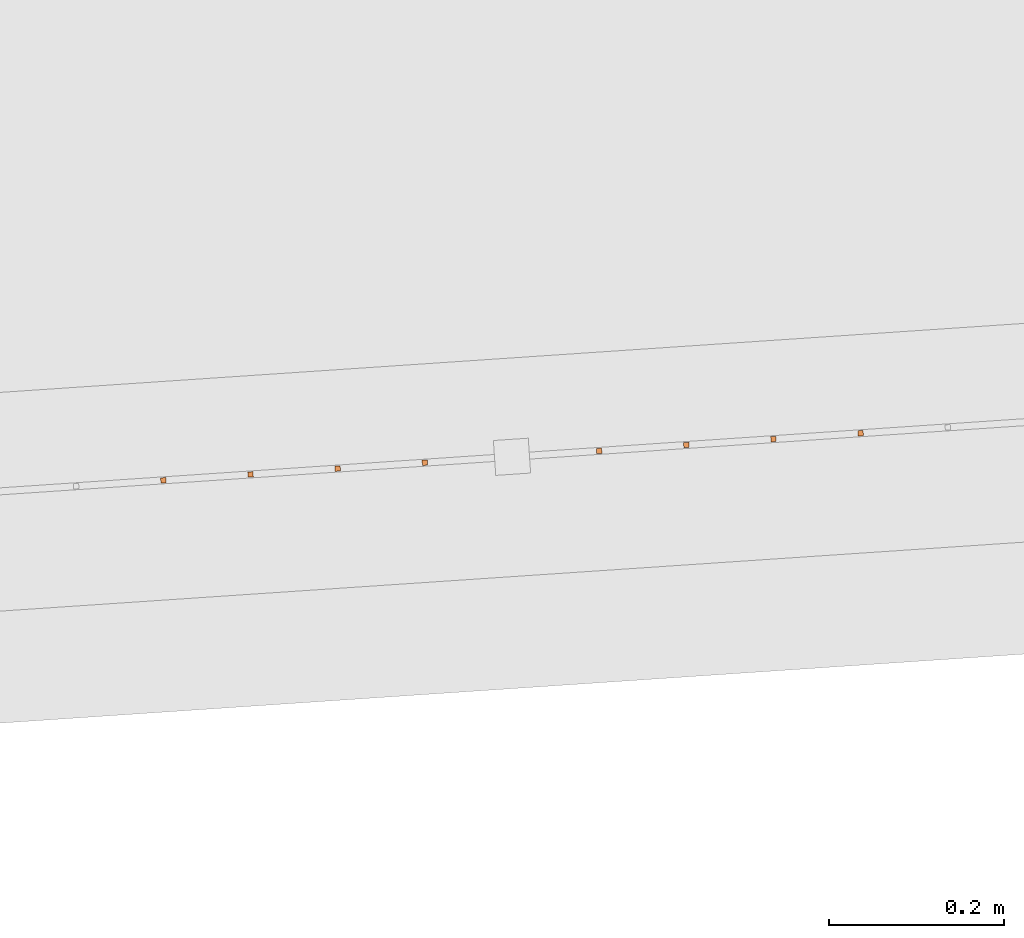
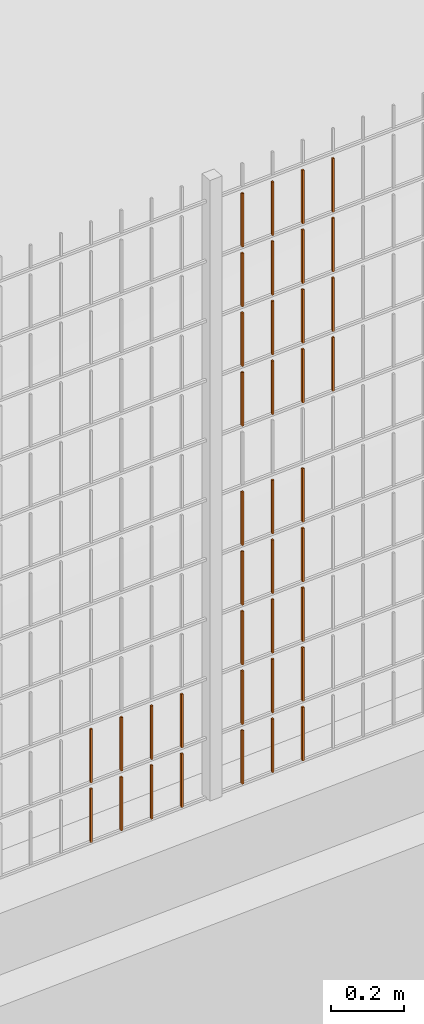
# One storey, part 160 of 1809: 39 proxies, 1 element without a shape of its own.
"""IFC2X3 building model written with IfcOpenShell, lengths in millimetres."""

from ifc_helpers import new_model, entity, si_unit, converted_unit, derived_unit, money_unit, direction, frame, origin_with_axes, place, context, subcontext, project, spatial, faceted_brep, source, transform, mapped, material, type_object, element, aggregate, save


model = new_model("IFC2X3")

# Units and contexts
model_context = context("Model", 3, precision=0.01, world=origin_with_axes(), true_north=direction((0.0, 1.0)))
body_context = subcontext(model_context, "Body", "Model", "MODEL_VIEW")
ifc_project = project(units=[si_unit("LENGTHUNIT", "METRE", prefix="MILLI"), si_unit("AREAUNIT", "SQUARE_METRE"), si_unit("VOLUMEUNIT", "CUBIC_METRE"), converted_unit("PLANEANGLEUNIT", "DEGREE", entity("IfcPlaneAngleMeasure", 0.0174532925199), si_unit("PLANEANGLEUNIT", "RADIAN"), dimensions=[0, 0, 0, 0, 0, 0, 0]), si_unit("SOLIDANGLEUNIT", "STERADIAN"), money_unit("EUR"), converted_unit("TIMEUNIT", "Year", entity("IfcTimeMeasure", 31556926.0), si_unit("TIMEUNIT", "SECOND"), dimensions=[0, 0, 1, 0, 0, 0, 0]), si_unit("MASSUNIT", "GRAM", prefix="KILO"), si_unit("THERMODYNAMICTEMPERATUREUNIT", "DEGREE_CELSIUS"), si_unit("LUMINOUSINTENSITYUNIT", "LUMEN"), si_unit("ENERGYUNIT", "JOULE", prefix="MEGA"), derived_unit("THERMALCONDUCTANCEUNIT", [(si_unit("POWERUNIT", "WATT"), 1), (si_unit("LENGTHUNIT", "METRE"), -1), (si_unit("THERMODYNAMICTEMPERATUREUNIT", "KELVIN"), -1)]), derived_unit("SPECIFICHEATCAPACITYUNIT", [(si_unit("ENERGYUNIT", "JOULE"), 1), (si_unit("MASSUNIT", "GRAM", prefix="KILO"), -1), (si_unit("THERMODYNAMICTEMPERATUREUNIT", "KELVIN"), -1)]), derived_unit("MASSDENSITYUNIT", [(si_unit("MASSUNIT", "GRAM", prefix="KILO"), 1), (si_unit("VOLUMEUNIT", "CUBIC_METRE"), -1)])], contexts=[model_context])

# Site, building, storey
site_placement = place(None, origin_with_axes())
site = spatial("IfcSite", under=ifc_project, at=site_placement, Name="Politse- ja Piirivalveameti ning Päästeameti ühishoone", CompositionType="ELEMENT")
building_placement = place(site_placement, origin_with_axes())
building = spatial("IfcBuilding", under=site, at=building_placement, Name="Politse- ja Piirivalveameti ning Päästeameti ühishoone", CompositionType="ELEMENT")
storey_placement = place(building_placement, origin_with_axes())
storey = spatial("IfcBuildingStorey", under=building, at=storey_placement, Name="Esimene korrus", CompositionType="ELEMENT", Elevation=0.0)

# Proxies
building_element_proxy_type_1 = type_object("IfcBuildingElementProxyType", Name="Railing Type", PredefinedType="NOTDEFINED")
proxy_1_placement = place(storey_placement, frame((89252.001212, -29183.4766571, 203.661247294), z_axis=(0.0, 0.0, 1.0), x_axis=(1.0, 0.0, 0.0)))
proxy_1 = element("IfcBuildingElementProxy", 1, at=proxy_1_placement, inside=storey, type_object=building_element_proxy_type_1, Name="PIIRDEAED")
ifc_material = material(Name="ET-03_Raud")
building_element_proxy_type_2 = type_object("IfcBuildingElementProxyType", Name="IfcBuildingElementProxy", PredefinedType="NOTDEFINED")
shared_shape_1 = source(origin_with_axes(), body_context, "Body", "Brep", [
    faceted_brep([(3.0, 3.0, -0.000752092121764), (-3.0, 3.0, -0.000752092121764), (-3.0, 3.0, 179.99926046), (3.0, 3.0, 179.99926046), (3.0, -3.0, 0.000752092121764), (-3.0, -3.0, 0.000752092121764), (-3.0, -3.0, 180.000764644), (3.0, -3.0, 180.000764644)], [[[0, 1, 2, 3]], [[0, 4, 5, 1]], [[1, 5, 6, 2]], [[3, 2, 6, 7]], [[4, 0, 3, 7]], [[5, 4, 7, 6]]]),
])
proxy_2_placement = place(proxy_1_placement, frame((-79246.1137957, -22650.5506845, 1207.32232342), z_axis=(0.0, 0.0, 1.0), x_axis=(1.0, 0.0, 0.0)))
proxy_2 = element("IfcBuildingElementProxy", 2, at=proxy_2_placement, type_object=building_element_proxy_type_2, material=ifc_material, Name="BALUSTER - 001", context=body_context, shape_type="MappedRepresentation", body=[
    mapped(shared_shape_1, transform((0.0, 0.0, 0.0), x_axis=(-0.0673926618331, 0.997726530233, 0.0), y_axis=(-0.997726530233, -0.0673926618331, 0.0), z_axis=(0.0, 0.0, 1.0))),
])
shared_shape_2 = source(origin_with_axes(), body_context, "Body", "Brep", [
    faceted_brep([(3.0, 3.0, -0.000752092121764), (-3.0, 3.0, -0.000752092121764), (-3.0, 3.0, 179.99926046), (3.0, 3.0, 179.99926046), (3.0, -3.0, 0.000752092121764), (-3.0, -3.0, 0.000752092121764), (-3.0, -3.0, 180.000764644), (3.0, -3.0, 180.000764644)], [[[0, 1, 2, 3]], [[0, 4, 5, 1]], [[1, 5, 6, 2]], [[3, 2, 6, 7]], [[4, 0, 3, 7]], [[5, 4, 7, 6]]]),
])
proxy_3_placement = place(proxy_1_placement, frame((-79246.1137957, -22650.5506845, 1407.32232342), z_axis=(0.0, 0.0, 1.0), x_axis=(1.0, 0.0, 0.0)))
proxy_3 = element("IfcBuildingElementProxy", 3, at=proxy_3_placement, type_object=building_element_proxy_type_2, material=ifc_material, Name="BALUSTER - 001", context=body_context, shape_type="MappedRepresentation", body=[
    mapped(shared_shape_2, transform((0.0, 0.0, 0.0), x_axis=(-0.0673926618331, 0.997726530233, 0.0), y_axis=(-0.997726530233, -0.0673926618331, 0.0), z_axis=(0.0, 0.0, 1.0))),
])
proxy_4_placement = place(proxy_1_placement, frame((-79246.1137957, -22650.5506845, 1607.32232342), z_axis=(0.0, 0.0, 1.0), x_axis=(1.0, 0.0, 0.0)))
proxy_4 = element("IfcBuildingElementProxy", 4, at=proxy_4_placement, type_object=building_element_proxy_type_2, material=ifc_material, Name="BALUSTER - 001", context=body_context, shape_type="MappedRepresentation", body=[
    mapped(shared_shape_2, transform((0.0, 0.0, 0.0), x_axis=(-0.0673926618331, 0.997726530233, 0.0), y_axis=(-0.997726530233, -0.0673926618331, 0.0), z_axis=(0.0, 0.0, 1.0))),
])
shared_shape_3 = source(origin_with_axes(), body_context, "Body", "Brep", [
    faceted_brep([(3.0, 3.0, -0.000752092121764), (-3.0, 3.0, -0.000752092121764), (-3.0, 3.0, 179.99926046), (3.0, 3.0, 179.99926046), (3.0, -3.0, 0.000752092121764), (-3.0, -3.0, 0.000752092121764), (-3.0, -3.0, 180.000764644), (3.0, -3.0, 180.000764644)], [[[0, 1, 2, 3]], [[0, 4, 5, 1]], [[1, 5, 6, 2]], [[3, 2, 6, 7]], [[4, 0, 3, 7]], [[5, 4, 7, 6]]]),
])
proxy_5_placement = place(proxy_1_placement, frame((-79445.6591017, -22664.0292168, 1807.27218394), z_axis=(0.0, 0.0, 1.0), x_axis=(1.0, 0.0, 0.0)))
proxy_5 = element("IfcBuildingElementProxy", 5, at=proxy_5_placement, type_object=building_element_proxy_type_2, material=ifc_material, Name="BALUSTER - 001", context=body_context, shape_type="MappedRepresentation", body=[
    mapped(shared_shape_3, transform((0.0, 0.0, 0.0), x_axis=(-0.0673926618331, 0.997726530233, 0.0), y_axis=(-0.997726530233, -0.0673926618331, 0.0), z_axis=(0.0, 0.0, 1.0))),
])
shared_shape_4 = source(origin_with_axes(), body_context, "Body", "Brep", [
    faceted_brep([(3.0, 3.0, -0.000752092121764), (-3.0, 3.0, -0.000752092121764), (-3.0, 3.0, 179.99926046), (3.0, 3.0, 179.99926046), (3.0, -3.0, 0.000752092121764), (-3.0, -3.0, 0.000752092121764), (-3.0, -3.0, 180.000764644), (3.0, -3.0, 180.000764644)], [[[0, 1, 2, 3]], [[0, 4, 5, 1]], [[1, 5, 6, 2]], [[3, 2, 6, 7]], [[4, 0, 3, 7]], [[5, 4, 7, 6]]]),
])
proxy_6_placement = place(proxy_1_placement, frame((-79445.6591017, -22664.0292168, 1207.27218394), z_axis=(0.0, 0.0, 1.0), x_axis=(1.0, 0.0, 0.0)))
proxy_6 = element("IfcBuildingElementProxy", 6, at=proxy_6_placement, type_object=building_element_proxy_type_2, material=ifc_material, Name="BALUSTER - 001", context=body_context, shape_type="MappedRepresentation", body=[
    mapped(shared_shape_4, transform((0.0, 0.0, 0.0), x_axis=(-0.0673926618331, 0.997726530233, 0.0), y_axis=(-0.997726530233, -0.0673926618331, 0.0), z_axis=(0.0, 0.0, 1.0))),
])
proxy_7_placement = place(proxy_1_placement, frame((-79246.1137957, -22650.5506845, 1807.32232342), z_axis=(0.0, 0.0, 1.0), x_axis=(1.0, 0.0, 0.0)))
proxy_7 = element("IfcBuildingElementProxy", 7, at=proxy_7_placement, type_object=building_element_proxy_type_2, material=ifc_material, Name="BALUSTER - 001", context=body_context, shape_type="MappedRepresentation", body=[
    mapped(shared_shape_4, transform((0.0, 0.0, 0.0), x_axis=(-0.0673926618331, 0.997726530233, 0.0), y_axis=(-0.997726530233, -0.0673926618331, 0.0), z_axis=(0.0, 0.0, 1.0))),
])
shared_shape_5 = source(origin_with_axes(), body_context, "Body", "Brep", [
    faceted_brep([(3.0, 3.0, -0.000752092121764), (-3.0, 3.0, -0.000752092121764), (-3.0, 3.0, 179.99926046), (3.0, 3.0, 179.99926046), (3.0, -3.0, 0.000752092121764), (-3.0, -3.0, 0.000752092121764), (-3.0, -3.0, 180.000764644), (3.0, -3.0, 180.000764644)], [[[0, 1, 2, 3]], [[0, 4, 5, 1]], [[1, 5, 6, 2]], [[3, 2, 6, 7]], [[4, 0, 3, 7]], [[5, 4, 7, 6]]]),
])
proxy_8_placement = place(proxy_1_placement, frame((-79744.9770608, -22684.2470154, 207.19697473), z_axis=(0.0, 0.0, 1.0), x_axis=(1.0, 0.0, 0.0)))
proxy_8 = element("IfcBuildingElementProxy", 8, at=proxy_8_placement, type_object=building_element_proxy_type_2, material=ifc_material, Name="BALUSTER - 001", context=body_context, shape_type="MappedRepresentation", body=[
    mapped(shared_shape_5, transform((0.0, 0.0, 0.0), x_axis=(-0.0673926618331, 0.997726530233, 0.0), y_axis=(-0.997726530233, -0.0673926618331, 0.0), z_axis=(0.0, 0.0, 1.0))),
])
shared_shape_6 = source(origin_with_axes(), body_context, "Body", "Brep", [
    faceted_brep([(3.0, 3.0, -0.000752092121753), (-3.0, 3.0, -0.000752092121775), (-3.0, 3.0, 179.99926046), (3.0, 3.0, 179.99926046), (3.0, -3.0, 0.000752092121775), (-3.0, -3.0, 0.000752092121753), (-3.0, -3.0, 180.000764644), (3.0, -3.0, 180.000764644)], [[[0, 1, 2, 3]], [[0, 4, 5, 1]], [[1, 5, 6, 2]], [[3, 2, 6, 7]], [[4, 0, 3, 7]], [[5, 4, 7, 6]]]),
])
proxy_9_placement = place(proxy_1_placement, frame((-79345.8864487, -22657.2899506, 7.29725367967), z_axis=(0.0, 0.0, 1.0), x_axis=(1.0, 0.0, 0.0)))
proxy_9 = element("IfcBuildingElementProxy", 9, at=proxy_9_placement, type_object=building_element_proxy_type_2, material=ifc_material, Name="BALUSTER - 001", context=body_context, shape_type="MappedRepresentation", body=[
    mapped(shared_shape_6, transform((0.0, 0.0, 0.0), x_axis=(-0.0673926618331, 0.997726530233, 0.0), y_axis=(-0.997726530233, -0.0673926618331, 0.0), z_axis=(0.0, 0.0, 1.0))),
])
proxy_10_placement = place(proxy_1_placement, frame((-79445.6591017, -22664.0292168, 7.27218394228), z_axis=(0.0, 0.0, 1.0), x_axis=(1.0, 0.0, 0.0)))
proxy_10 = element("IfcBuildingElementProxy", 10, at=proxy_10_placement, type_object=building_element_proxy_type_2, material=ifc_material, Name="BALUSTER - 001", context=body_context, shape_type="MappedRepresentation", body=[
    mapped(shared_shape_6, transform((0.0, 0.0, 0.0), x_axis=(-0.0673926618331, 0.997726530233, 0.0), y_axis=(-0.997726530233, -0.0673926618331, 0.0), z_axis=(0.0, 0.0, 1.0))),
])
proxy_11_placement = place(proxy_1_placement, frame((-79345.8864487, -22657.2899506, 207.29725368), z_axis=(0.0, 0.0, 1.0), x_axis=(1.0, 0.0, 0.0)))
proxy_11 = element("IfcBuildingElementProxy", 11, at=proxy_11_placement, type_object=building_element_proxy_type_2, material=ifc_material, Name="BALUSTER - 001", context=body_context, shape_type="MappedRepresentation", body=[
    mapped(shared_shape_6, transform((0.0, 0.0, 0.0), x_axis=(-0.0673926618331, 0.997726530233, 0.0), y_axis=(-0.997726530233, -0.0673926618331, 0.0), z_axis=(0.0, 0.0, 1.0))),
])
proxy_12_placement = place(proxy_1_placement, frame((-79445.6591017, -22664.0292168, 207.272183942), z_axis=(0.0, 0.0, 1.0), x_axis=(1.0, 0.0, 0.0)))
proxy_12 = element("IfcBuildingElementProxy", 12, at=proxy_12_placement, type_object=building_element_proxy_type_2, material=ifc_material, Name="BALUSTER - 001", context=body_context, shape_type="MappedRepresentation", body=[
    mapped(shared_shape_6, transform((0.0, 0.0, 0.0), x_axis=(-0.0673926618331, 0.997726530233, 0.0), y_axis=(-0.997726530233, -0.0673926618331, 0.0), z_axis=(0.0, 0.0, 1.0))),
])
proxy_13_placement = place(proxy_1_placement, frame((-79944.5223669, -22697.7255477, 7.14683525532), z_axis=(0.0, 0.0, 1.0), x_axis=(1.0, 0.0, 0.0)))
proxy_13 = element("IfcBuildingElementProxy", 13, at=proxy_13_placement, type_object=building_element_proxy_type_2, material=ifc_material, Name="BALUSTER - 001", context=body_context, shape_type="MappedRepresentation", body=[
    mapped(shared_shape_6, transform((0.0, 0.0, 0.0), x_axis=(-0.0673926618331, 0.997726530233, 0.0), y_axis=(-0.997726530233, -0.0673926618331, 0.0), z_axis=(0.0, 0.0, 1.0))),
])
proxy_14_placement = place(proxy_1_placement, frame((-80044.2950199, -22704.4648139, 7.12176551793), z_axis=(0.0, 0.0, 1.0), x_axis=(1.0, 0.0, 0.0)))
proxy_14 = element("IfcBuildingElementProxy", 14, at=proxy_14_placement, type_object=building_element_proxy_type_2, material=ifc_material, Name="BALUSTER - 001", context=body_context, shape_type="MappedRepresentation", body=[
    mapped(shared_shape_6, transform((0.0, 0.0, 0.0), x_axis=(-0.0673926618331, 0.997726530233, 0.0), y_axis=(-0.997726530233, -0.0673926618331, 0.0), z_axis=(0.0, 0.0, 1.0))),
])
proxy_15_placement = place(proxy_1_placement, frame((-80044.2950199, -22704.4648139, 207.121765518), z_axis=(0.0, 0.0, 1.0), x_axis=(1.0, 0.0, 0.0)))
proxy_15 = element("IfcBuildingElementProxy", 15, at=proxy_15_placement, type_object=building_element_proxy_type_2, material=ifc_material, Name="BALUSTER - 001", context=body_context, shape_type="MappedRepresentation", body=[
    mapped(shared_shape_6, transform((0.0, 0.0, 0.0), x_axis=(-0.0673926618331, 0.997726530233, 0.0), y_axis=(-0.997726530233, -0.0673926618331, 0.0), z_axis=(0.0, 0.0, 1.0))),
])
shared_shape_7 = source(origin_with_axes(), body_context, "Body", "Brep", [
    faceted_brep([(3.0, 3.0, -0.000752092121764), (-3.0, 3.0, -0.000752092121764), (-3.0, 3.0, 179.99926046), (3.0, 3.0, 179.99926046), (3.0, -3.0, 0.000752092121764), (-3.0, -3.0, 0.000752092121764), (-3.0, -3.0, 180.000764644), (3.0, -3.0, 180.000764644)], [[[0, 1, 2, 3]], [[0, 4, 5, 1]], [[1, 5, 6, 2]], [[3, 2, 6, 7]], [[4, 0, 3, 7]], [[5, 4, 7, 6]]]),
])
proxy_16_placement = place(proxy_1_placement, frame((-79844.7497138, -22690.9862816, 7.17190499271), z_axis=(0.0, 0.0, 1.0), x_axis=(1.0, 0.0, 0.0)))
proxy_16 = element("IfcBuildingElementProxy", 16, at=proxy_16_placement, type_object=building_element_proxy_type_2, material=ifc_material, Name="BALUSTER - 001", context=body_context, shape_type="MappedRepresentation", body=[
    mapped(shared_shape_7, transform((0.0, 0.0, 0.0), x_axis=(-0.0673926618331, 0.997726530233, 0.0), y_axis=(-0.997726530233, -0.0673926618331, 0.0), z_axis=(0.0, 0.0, 1.0))),
])
shared_shape_8 = source(origin_with_axes(), body_context, "Body", "Brep", [
    faceted_brep([(3.0, 3.0, -0.000752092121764), (-3.0, 3.0, -0.000752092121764), (-3.0, 3.0, 179.99926046), (3.0, 3.0, 179.99926046), (3.0, -3.0, 0.000752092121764), (-3.0, -3.0, 0.000752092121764), (-3.0, -3.0, 180.000764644), (3.0, -3.0, 180.000764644)], [[[0, 1, 2, 3]], [[0, 4, 5, 1]], [[1, 5, 6, 2]], [[3, 2, 6, 7]], [[4, 0, 3, 7]], [[5, 4, 7, 6]]]),
])
proxy_17_placement = place(proxy_1_placement, frame((-79844.7497138, -22690.9862816, 207.171904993), z_axis=(0.0, 0.0, 1.0), x_axis=(1.0, 0.0, 0.0)))
proxy_17 = element("IfcBuildingElementProxy", 17, at=proxy_17_placement, type_object=building_element_proxy_type_2, material=ifc_material, Name="BALUSTER - 001", context=body_context, shape_type="MappedRepresentation", body=[
    mapped(shared_shape_8, transform((0.0, 0.0, 0.0), x_axis=(-0.0673926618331, 0.997726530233, 0.0), y_axis=(-0.997726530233, -0.0673926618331, 0.0), z_axis=(0.0, 0.0, 1.0))),
])
shared_shape_9 = source(origin_with_axes(), body_context, "Body", "Brep", [
    faceted_brep([(3.0, 3.0, -0.000752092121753), (-3.0, 3.0, -0.000752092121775), (-3.0, 3.0, 179.99926046), (3.0, 3.0, 179.99926046), (3.0, -3.0, 0.000752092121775), (-3.0, -3.0, 0.000752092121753), (-3.0, -3.0, 180.000764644), (3.0, -3.0, 180.000764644)], [[[0, 1, 2, 3]], [[0, 4, 5, 1]], [[1, 5, 6, 2]], [[3, 2, 6, 7]], [[4, 0, 3, 7]], [[5, 4, 7, 6]]]),
])
proxy_18_placement = place(proxy_1_placement, frame((-79445.6591017, -22664.0292168, 407.272183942), z_axis=(0.0, 0.0, 1.0), x_axis=(1.0, 0.0, 0.0)))
proxy_18 = element("IfcBuildingElementProxy", 18, at=proxy_18_placement, type_object=building_element_proxy_type_2, material=ifc_material, Name="BALUSTER - 001", context=body_context, shape_type="MappedRepresentation", body=[
    mapped(shared_shape_9, transform((0.0, 0.0, 0.0), x_axis=(-0.0673926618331, 0.997726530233, 0.0), y_axis=(-0.997726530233, -0.0673926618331, 0.0), z_axis=(0.0, 0.0, 1.0))),
])
proxy_19_placement = place(proxy_1_placement, frame((-79545.4317548, -22670.768483, 607.247114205), z_axis=(0.0, 0.0, 1.0), x_axis=(1.0, 0.0, 0.0)))
proxy_19 = element("IfcBuildingElementProxy", 19, at=proxy_19_placement, type_object=building_element_proxy_type_2, material=ifc_material, Name="BALUSTER - 001", context=body_context, shape_type="MappedRepresentation", body=[
    mapped(shared_shape_9, transform((0.0, 0.0, 0.0), x_axis=(-0.0673926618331, 0.997726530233, 0.0), y_axis=(-0.997726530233, -0.0673926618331, 0.0), z_axis=(0.0, 0.0, 1.0))),
])
shared_shape_10 = source(origin_with_axes(), body_context, "Body", "Brep", [
    faceted_brep([(3.0, 3.0, -0.000752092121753), (-3.0, 3.0, -0.000752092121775), (-3.0, 3.0, 179.99926046), (3.0, 3.0, 179.99926046), (3.0, -3.0, 0.000752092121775), (-3.0, -3.0, 0.000752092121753), (-3.0, -3.0, 180.000764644), (3.0, -3.0, 180.000764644)], [[[0, 1, 2, 3]], [[0, 4, 5, 1]], [[1, 5, 6, 2]], [[3, 2, 6, 7]], [[4, 0, 3, 7]], [[5, 4, 7, 6]]]),
])
proxy_20_placement = place(proxy_1_placement, frame((-79345.8864487, -22657.2899506, 607.29725368), z_axis=(0.0, 0.0, 1.0), x_axis=(1.0, 0.0, 0.0)))
proxy_20 = element("IfcBuildingElementProxy", 20, at=proxy_20_placement, type_object=building_element_proxy_type_2, material=ifc_material, Name="BALUSTER - 001", context=body_context, shape_type="MappedRepresentation", body=[
    mapped(shared_shape_10, transform((0.0, 0.0, 0.0), x_axis=(-0.0673926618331, 0.997726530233, 0.0), y_axis=(-0.997726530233, -0.0673926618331, 0.0), z_axis=(0.0, 0.0, 1.0))),
])
proxy_21_placement = place(proxy_1_placement, frame((-79345.8864487, -22657.2899506, 807.29725368), z_axis=(0.0, 0.0, 1.0), x_axis=(1.0, 0.0, 0.0)))
proxy_21 = element("IfcBuildingElementProxy", 21, at=proxy_21_placement, type_object=building_element_proxy_type_2, material=ifc_material, Name="BALUSTER - 001", context=body_context, shape_type="MappedRepresentation", body=[
    mapped(shared_shape_10, transform((0.0, 0.0, 0.0), x_axis=(-0.0673926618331, 0.997726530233, 0.0), y_axis=(-0.997726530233, -0.0673926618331, 0.0), z_axis=(0.0, 0.0, 1.0))),
])
proxy_22_placement = place(proxy_1_placement, frame((-79345.8864487, -22657.2899506, 1207.29725368), z_axis=(0.0, 0.0, 1.0), x_axis=(1.0, 0.0, 0.0)))
proxy_22 = element("IfcBuildingElementProxy", 22, at=proxy_22_placement, type_object=building_element_proxy_type_2, material=ifc_material, Name="BALUSTER - 001", context=body_context, shape_type="MappedRepresentation", body=[
    mapped(shared_shape_10, transform((0.0, 0.0, 0.0), x_axis=(-0.0673926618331, 0.997726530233, 0.0), y_axis=(-0.997726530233, -0.0673926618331, 0.0), z_axis=(0.0, 0.0, 1.0))),
])
shared_shape_11 = source(origin_with_axes(), body_context, "Body", "Brep", [
    faceted_brep([(3.0, 3.0, -0.000752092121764), (-3.0, 3.0, -0.000752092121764), (-3.0, 3.0, 179.99926046), (3.0, 3.0, 179.99926046), (3.0, -3.0, 0.000752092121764), (-3.0, -3.0, 0.000752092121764), (-3.0, -3.0, 180.000764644), (3.0, -3.0, 180.000764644)], [[[0, 1, 2, 3]], [[0, 4, 5, 1]], [[1, 5, 6, 2]], [[3, 2, 6, 7]], [[4, 0, 3, 7]], [[5, 4, 7, 6]]]),
])
proxy_23_placement = place(proxy_1_placement, frame((-79545.4317548, -22670.768483, 1807.2471142), z_axis=(0.0, 0.0, 1.0), x_axis=(1.0, 0.0, 0.0)))
proxy_23 = element("IfcBuildingElementProxy", 23, at=proxy_23_placement, type_object=building_element_proxy_type_2, material=ifc_material, Name="BALUSTER - 001", context=body_context, shape_type="MappedRepresentation", body=[
    mapped(shared_shape_11, transform((0.0, 0.0, 0.0), x_axis=(-0.0673926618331, 0.997726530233, 0.0), y_axis=(-0.997726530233, -0.0673926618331, 0.0), z_axis=(0.0, 0.0, 1.0))),
])
shared_shape_12 = source(origin_with_axes(), body_context, "Body", "Brep", [
    faceted_brep([(3.0, 3.0, -0.000752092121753), (-3.0, 3.0, -0.000752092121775), (-3.0, 3.0, 179.99926046), (3.0, 3.0, 179.99926046), (3.0, -3.0, 0.000752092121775), (-3.0, -3.0, 0.000752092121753), (-3.0, -3.0, 180.000764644), (3.0, -3.0, 180.000764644)], [[[0, 1, 2, 3]], [[0, 4, 5, 1]], [[1, 5, 6, 2]], [[3, 2, 6, 7]], [[4, 0, 3, 7]], [[5, 4, 7, 6]]]),
])
proxy_24_placement = place(proxy_1_placement, frame((-79445.6591017, -22664.0292168, 807.272183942), z_axis=(0.0, 0.0, 1.0), x_axis=(1.0, 0.0, 0.0)))
proxy_24 = element("IfcBuildingElementProxy", 24, at=proxy_24_placement, type_object=building_element_proxy_type_2, material=ifc_material, Name="BALUSTER - 001", context=body_context, shape_type="MappedRepresentation", body=[
    mapped(shared_shape_12, transform((0.0, 0.0, 0.0), x_axis=(-0.0673926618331, 0.997726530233, 0.0), y_axis=(-0.997726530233, -0.0673926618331, 0.0), z_axis=(0.0, 0.0, 1.0))),
])
shared_shape_13 = source(origin_with_axes(), body_context, "Body", "Brep", [
    faceted_brep([(3.0, 3.0, -0.000752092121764), (-3.0, 3.0, -0.000752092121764), (-3.0, 3.0, 179.99926046), (3.0, 3.0, 179.99926046), (3.0, -3.0, 0.000752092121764), (-3.0, -3.0, 0.000752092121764), (-3.0, -3.0, 180.000764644), (3.0, -3.0, 180.000764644)], [[[0, 1, 2, 3]], [[0, 4, 5, 1]], [[1, 5, 6, 2]], [[3, 2, 6, 7]], [[4, 0, 3, 7]], [[5, 4, 7, 6]]]),
])
proxy_25_placement = place(proxy_1_placement, frame((-79445.6591017, -22664.0292168, 1407.27218394), z_axis=(0.0, 0.0, 1.0), x_axis=(1.0, 0.0, 0.0)))
proxy_25 = element("IfcBuildingElementProxy", 25, at=proxy_25_placement, type_object=building_element_proxy_type_2, material=ifc_material, Name="BALUSTER - 001", context=body_context, shape_type="MappedRepresentation", body=[
    mapped(shared_shape_13, transform((0.0, 0.0, 0.0), x_axis=(-0.0673926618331, 0.997726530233, 0.0), y_axis=(-0.997726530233, -0.0673926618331, 0.0), z_axis=(0.0, 0.0, 1.0))),
])
proxy_26_placement = place(proxy_1_placement, frame((-79445.6591017, -22664.0292168, 1607.27218394), z_axis=(0.0, 0.0, 1.0), x_axis=(1.0, 0.0, 0.0)))
proxy_26 = element("IfcBuildingElementProxy", 26, at=proxy_26_placement, type_object=building_element_proxy_type_2, material=ifc_material, Name="BALUSTER - 001", context=body_context, shape_type="MappedRepresentation", body=[
    mapped(shared_shape_13, transform((0.0, 0.0, 0.0), x_axis=(-0.0673926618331, 0.997726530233, 0.0), y_axis=(-0.997726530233, -0.0673926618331, 0.0), z_axis=(0.0, 0.0, 1.0))),
])
shared_shape_14 = source(origin_with_axes(), body_context, "Body", "Brep", [
    faceted_brep([(3.0, 3.0, -0.000752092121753), (-3.0, 3.0, -0.000752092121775), (-3.0, 3.0, 179.99926046), (3.0, 3.0, 179.99926046), (3.0, -3.0, 0.000752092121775), (-3.0, -3.0, 0.000752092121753), (-3.0, -3.0, 180.000764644), (3.0, -3.0, 180.000764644)], [[[0, 1, 2, 3]], [[0, 4, 5, 1]], [[1, 5, 6, 2]], [[3, 2, 6, 7]], [[4, 0, 3, 7]], [[5, 4, 7, 6]]]),
])
proxy_27_placement = place(proxy_1_placement, frame((-79345.8864487, -22657.2899506, 1407.29725368), z_axis=(0.0, 0.0, 1.0), x_axis=(1.0, 0.0, 0.0)))
proxy_27 = element("IfcBuildingElementProxy", 27, at=proxy_27_placement, type_object=building_element_proxy_type_2, material=ifc_material, Name="BALUSTER - 001", context=body_context, shape_type="MappedRepresentation", body=[
    mapped(shared_shape_14, transform((0.0, 0.0, 0.0), x_axis=(-0.0673926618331, 0.997726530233, 0.0), y_axis=(-0.997726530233, -0.0673926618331, 0.0), z_axis=(0.0, 0.0, 1.0))),
])
proxy_28_placement = place(proxy_1_placement, frame((-79345.8864487, -22657.2899506, 1607.29725368), z_axis=(0.0, 0.0, 1.0), x_axis=(1.0, 0.0, 0.0)))
proxy_28 = element("IfcBuildingElementProxy", 28, at=proxy_28_placement, type_object=building_element_proxy_type_2, material=ifc_material, Name="BALUSTER - 001", context=body_context, shape_type="MappedRepresentation", body=[
    mapped(shared_shape_14, transform((0.0, 0.0, 0.0), x_axis=(-0.0673926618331, 0.997726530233, 0.0), y_axis=(-0.997726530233, -0.0673926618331, 0.0), z_axis=(0.0, 0.0, 1.0))),
])
shared_shape_15 = source(origin_with_axes(), body_context, "Body", "Brep", [
    faceted_brep([(3.0, 3.0, -0.000752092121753), (-3.0, 3.0, -0.000752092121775), (-3.0, 3.0, 179.99926046), (3.0, 3.0, 179.99926046), (3.0, -3.0, 0.000752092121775), (-3.0, -3.0, 0.000752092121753), (-3.0, -3.0, 180.000764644), (3.0, -3.0, 180.000764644)], [[[0, 1, 2, 3]], [[0, 4, 5, 1]], [[1, 5, 6, 2]], [[3, 2, 6, 7]], [[4, 0, 3, 7]], [[5, 4, 7, 6]]]),
])
proxy_29_placement = place(proxy_1_placement, frame((-79445.6591017, -22664.0292168, 607.272183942), z_axis=(0.0, 0.0, 1.0), x_axis=(1.0, 0.0, 0.0)))
proxy_29 = element("IfcBuildingElementProxy", 29, at=proxy_29_placement, type_object=building_element_proxy_type_2, material=ifc_material, Name="BALUSTER - 001", context=body_context, shape_type="MappedRepresentation", body=[
    mapped(shared_shape_15, transform((0.0, 0.0, 0.0), x_axis=(-0.0673926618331, 0.997726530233, 0.0), y_axis=(-0.997726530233, -0.0673926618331, 0.0), z_axis=(0.0, 0.0, 1.0))),
])
proxy_30_placement = place(proxy_1_placement, frame((-79545.4317548, -22670.768483, 807.247114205), z_axis=(0.0, 0.0, 1.0), x_axis=(1.0, 0.0, 0.0)))
proxy_30 = element("IfcBuildingElementProxy", 30, at=proxy_30_placement, type_object=building_element_proxy_type_2, material=ifc_material, Name="BALUSTER - 001", context=body_context, shape_type="MappedRepresentation", body=[
    mapped(shared_shape_15, transform((0.0, 0.0, 0.0), x_axis=(-0.0673926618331, 0.997726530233, 0.0), y_axis=(-0.997726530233, -0.0673926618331, 0.0), z_axis=(0.0, 0.0, 1.0))),
])
proxy_31_placement = place(proxy_1_placement, frame((-79345.8864487, -22657.2899506, 1807.29725368), z_axis=(0.0, 0.0, 1.0), x_axis=(1.0, 0.0, 0.0)))
proxy_31 = element("IfcBuildingElementProxy", 31, at=proxy_31_placement, type_object=building_element_proxy_type_2, material=ifc_material, Name="BALUSTER - 001", context=body_context, shape_type="MappedRepresentation", body=[
    mapped(shared_shape_15, transform((0.0, 0.0, 0.0), x_axis=(-0.0673926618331, 0.997726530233, 0.0), y_axis=(-0.997726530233, -0.0673926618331, 0.0), z_axis=(0.0, 0.0, 1.0))),
])
shared_shape_16 = source(origin_with_axes(), body_context, "Body", "Brep", [
    faceted_brep([(3.0, 3.0, -0.000752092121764), (-3.0, 3.0, -0.000752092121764), (-3.0, 3.0, 179.99926046), (3.0, 3.0, 179.99926046), (3.0, -3.0, 0.000752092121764), (-3.0, -3.0, 0.000752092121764), (-3.0, -3.0, 180.000764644), (3.0, -3.0, 180.000764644)], [[[0, 1, 2, 3]], [[0, 4, 5, 1]], [[1, 5, 6, 2]], [[3, 2, 6, 7]], [[4, 0, 3, 7]], [[5, 4, 7, 6]]]),
])
proxy_32_placement = place(proxy_1_placement, frame((-79545.4317548, -22670.768483, 1207.2471142), z_axis=(0.0, 0.0, 1.0), x_axis=(1.0, 0.0, 0.0)))
proxy_32 = element("IfcBuildingElementProxy", 32, at=proxy_32_placement, type_object=building_element_proxy_type_2, material=ifc_material, Name="BALUSTER - 001", context=body_context, shape_type="MappedRepresentation", body=[
    mapped(shared_shape_16, transform((0.0, 0.0, 0.0), x_axis=(-0.0673926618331, 0.997726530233, 0.0), y_axis=(-0.997726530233, -0.0673926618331, 0.0), z_axis=(0.0, 0.0, 1.0))),
])
shared_shape_17 = source(origin_with_axes(), body_context, "Body", "Brep", [
    faceted_brep([(3.0, 3.0, -0.000752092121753), (-3.0, 3.0, -0.000752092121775), (-3.0, 3.0, 179.99926046), (3.0, 3.0, 179.99926046), (3.0, -3.0, 0.000752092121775), (-3.0, -3.0, 0.000752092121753), (-3.0, -3.0, 180.000764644), (3.0, -3.0, 180.000764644)], [[[0, 1, 2, 3]], [[0, 4, 5, 1]], [[1, 5, 6, 2]], [[3, 2, 6, 7]], [[4, 0, 3, 7]], [[5, 4, 7, 6]]]),
])
proxy_33_placement = place(proxy_1_placement, frame((-79944.5223669, -22697.7255477, 207.146835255), z_axis=(0.0, 0.0, 1.0), x_axis=(1.0, 0.0, 0.0)))
proxy_33 = element("IfcBuildingElementProxy", 33, at=proxy_33_placement, type_object=building_element_proxy_type_2, material=ifc_material, Name="BALUSTER - 001", context=body_context, shape_type="MappedRepresentation", body=[
    mapped(shared_shape_17, transform((0.0, 0.0, 0.0), x_axis=(-0.0673926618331, 0.997726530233, 0.0), y_axis=(-0.997726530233, -0.0673926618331, 0.0), z_axis=(0.0, 0.0, 1.0))),
])
shared_shape_18 = source(origin_with_axes(), body_context, "Body", "Brep", [
    faceted_brep([(3.0, 3.0, -0.000752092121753), (-3.0, 3.0, -0.000752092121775), (-3.0, 3.0, 179.99926046), (3.0, 3.0, 179.99926046), (3.0, -3.0, 0.000752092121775), (-3.0, -3.0, 0.000752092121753), (-3.0, -3.0, 180.000764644), (3.0, -3.0, 180.000764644)], [[[0, 1, 2, 3]], [[0, 4, 5, 1]], [[1, 5, 6, 2]], [[3, 2, 6, 7]], [[4, 0, 3, 7]], [[5, 4, 7, 6]]]),
])
proxy_34_placement = place(proxy_1_placement, frame((-79545.4317548, -22670.768483, 7.24711420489), z_axis=(0.0, 0.0, 1.0), x_axis=(1.0, 0.0, 0.0)))
proxy_34 = element("IfcBuildingElementProxy", 34, at=proxy_34_placement, type_object=building_element_proxy_type_2, material=ifc_material, Name="BALUSTER - 001", context=body_context, shape_type="MappedRepresentation", body=[
    mapped(shared_shape_18, transform((0.0, 0.0, 0.0), x_axis=(-0.0673926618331, 0.997726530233, 0.0), y_axis=(-0.997726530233, -0.0673926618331, 0.0), z_axis=(0.0, 0.0, 1.0))),
])
shared_shape_19 = source(origin_with_axes(), body_context, "Body", "Brep", [
    faceted_brep([(3.0, 3.0, -0.000752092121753), (-3.0, 3.0, -0.000752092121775), (-3.0, 3.0, 179.99926046), (3.0, 3.0, 179.99926046), (3.0, -3.0, 0.000752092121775), (-3.0, -3.0, 0.000752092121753), (-3.0, -3.0, 180.000764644), (3.0, -3.0, 180.000764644)], [[[0, 1, 2, 3]], [[0, 4, 5, 1]], [[1, 5, 6, 2]], [[3, 2, 6, 7]], [[4, 0, 3, 7]], [[5, 4, 7, 6]]]),
])
proxy_35_placement = place(proxy_1_placement, frame((-79545.4317548, -22670.768483, 207.247114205), z_axis=(0.0, 0.0, 1.0), x_axis=(1.0, 0.0, 0.0)))
proxy_35 = element("IfcBuildingElementProxy", 35, at=proxy_35_placement, type_object=building_element_proxy_type_2, material=ifc_material, Name="BALUSTER - 001", context=body_context, shape_type="MappedRepresentation", body=[
    mapped(shared_shape_19, transform((0.0, 0.0, 0.0), x_axis=(-0.0673926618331, 0.997726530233, 0.0), y_axis=(-0.997726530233, -0.0673926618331, 0.0), z_axis=(0.0, 0.0, 1.0))),
])
proxy_36_placement = place(proxy_1_placement, frame((-79345.8864487, -22657.2899506, 407.29725368), z_axis=(0.0, 0.0, 1.0), x_axis=(1.0, 0.0, 0.0)))
proxy_36 = element("IfcBuildingElementProxy", 36, at=proxy_36_placement, type_object=building_element_proxy_type_2, material=ifc_material, Name="BALUSTER - 001", context=body_context, shape_type="MappedRepresentation", body=[
    mapped(shared_shape_19, transform((0.0, 0.0, 0.0), x_axis=(-0.0673926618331, 0.997726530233, 0.0), y_axis=(-0.997726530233, -0.0673926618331, 0.0), z_axis=(0.0, 0.0, 1.0))),
])
proxy_37_placement = place(proxy_1_placement, frame((-79545.4317548, -22670.768483, 407.247114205), z_axis=(0.0, 0.0, 1.0), x_axis=(1.0, 0.0, 0.0)))
proxy_37 = element("IfcBuildingElementProxy", 37, at=proxy_37_placement, type_object=building_element_proxy_type_2, material=ifc_material, Name="BALUSTER - 001", context=body_context, shape_type="MappedRepresentation", body=[
    mapped(shared_shape_19, transform((0.0, 0.0, 0.0), x_axis=(-0.0673926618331, 0.997726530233, 0.0), y_axis=(-0.997726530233, -0.0673926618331, 0.0), z_axis=(0.0, 0.0, 1.0))),
])
shared_shape_20 = source(origin_with_axes(), body_context, "Body", "Brep", [
    faceted_brep([(3.0, 3.0, -0.000752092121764), (-3.0, 3.0, -0.000752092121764), (-3.0, 3.0, 179.99926046), (3.0, 3.0, 179.99926046), (3.0, -3.0, 0.000752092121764), (-3.0, -3.0, 0.000752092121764), (-3.0, -3.0, 180.000764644), (3.0, -3.0, 180.000764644)], [[[0, 1, 2, 3]], [[0, 4, 5, 1]], [[1, 5, 6, 2]], [[3, 2, 6, 7]], [[4, 0, 3, 7]], [[5, 4, 7, 6]]]),
])
proxy_38_placement = place(proxy_1_placement, frame((-79545.4317548, -22670.768483, 1407.2471142), z_axis=(0.0, 0.0, 1.0), x_axis=(1.0, 0.0, 0.0)))
proxy_38 = element("IfcBuildingElementProxy", 38, at=proxy_38_placement, type_object=building_element_proxy_type_2, material=ifc_material, Name="BALUSTER - 001", context=body_context, shape_type="MappedRepresentation", body=[
    mapped(shared_shape_20, transform((0.0, 0.0, 0.0), x_axis=(-0.0673926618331, 0.997726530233, 0.0), y_axis=(-0.997726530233, -0.0673926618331, 0.0), z_axis=(0.0, 0.0, 1.0))),
])
proxy_39_placement = place(proxy_1_placement, frame((-79545.4317548, -22670.768483, 1607.2471142), z_axis=(0.0, 0.0, 1.0), x_axis=(1.0, 0.0, 0.0)))
proxy_39 = element("IfcBuildingElementProxy", 39, at=proxy_39_placement, type_object=building_element_proxy_type_2, material=ifc_material, Name="BALUSTER - 001", context=body_context, shape_type="MappedRepresentation", body=[
    mapped(shared_shape_20, transform((0.0, 0.0, 0.0), x_axis=(-0.0673926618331, 0.997726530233, 0.0), y_axis=(-0.997726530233, -0.0673926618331, 0.0), z_axis=(0.0, 0.0, 1.0))),
])
shared_shape_21 = source(origin_with_axes(), body_context, "Body", "Brep", [
    faceted_brep([(3.0, 3.0, -0.000752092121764), (-3.0, 3.0, -0.000752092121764), (-3.0, 3.0, 179.99926046), (3.0, 3.0, 179.99926046), (3.0, -3.0, 0.000752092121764), (-3.0, -3.0, 0.000752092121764), (-3.0, -3.0, 180.000764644), (3.0, -3.0, 180.000764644)], [[[0, 1, 2, 3]], [[0, 4, 5, 1]], [[1, 5, 6, 2]], [[3, 2, 6, 7]], [[4, 0, 3, 7]], [[5, 4, 7, 6]]]),
])
proxy_40_placement = place(proxy_1_placement, frame((-79744.9770608, -22684.2470154, 7.19697473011), z_axis=(0.0, 0.0, 1.0), x_axis=(1.0, 0.0, 0.0)))
proxy_40 = element("IfcBuildingElementProxy", 40, at=proxy_40_placement, type_object=building_element_proxy_type_2, material=ifc_material, Name="BALUSTER - 001", context=body_context, shape_type="MappedRepresentation", body=[
    mapped(shared_shape_21, transform((0.0, 0.0, 0.0), x_axis=(-0.0673926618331, 0.997726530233, 0.0), y_axis=(-0.997726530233, -0.0673926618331, 0.0), z_axis=(0.0, 0.0, 1.0))),
])
aggregate(proxy_1, [proxy_9, proxy_10, proxy_34, proxy_11, proxy_12, proxy_35, proxy_36, proxy_18, proxy_37, proxy_20, proxy_29, proxy_19, proxy_21, proxy_24, proxy_30, proxy_2, proxy_22, proxy_6, proxy_32, proxy_3, proxy_27, proxy_25, proxy_38, proxy_4, proxy_28, proxy_26, proxy_39, proxy_7, proxy_31, proxy_5, proxy_23, proxy_40, proxy_16, proxy_13, proxy_14, proxy_8, proxy_17, proxy_33, proxy_15])

save(model, "model.ifc")
